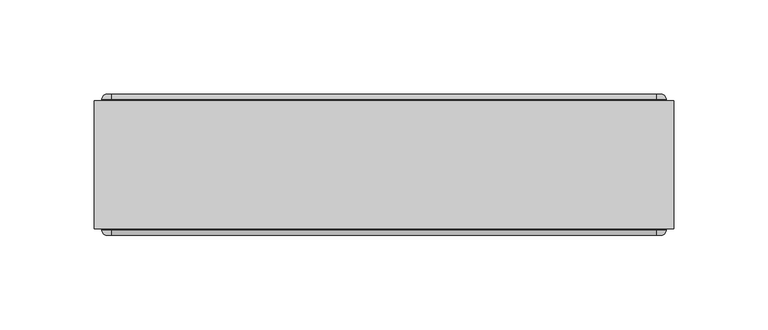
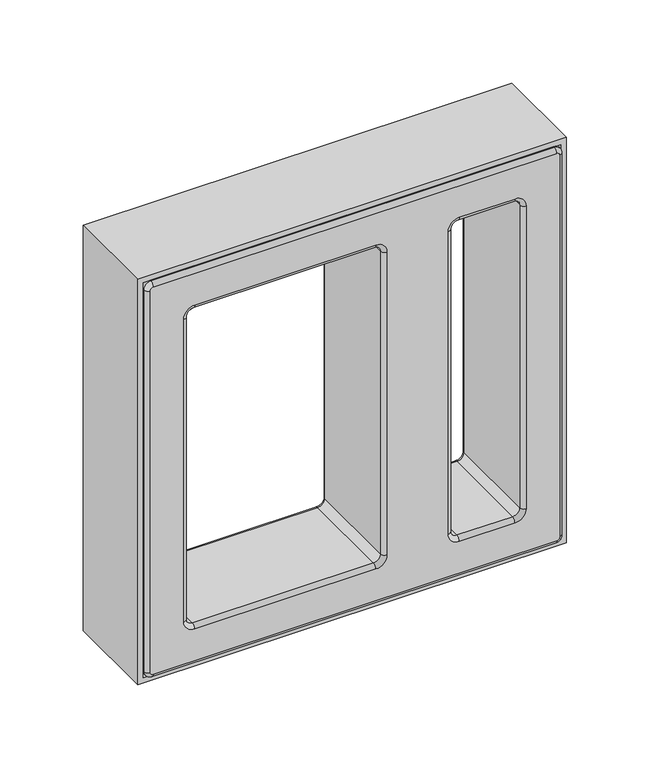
"""IFC4 building model written with IfcOpenShell, lengths in millimetres: proxy geometry, PORTOBELLO - ELEMENTO ASSIM BRANCO 30X30 (COBOGO) : ASSIM BRANCO."""

from ifc_helpers import new_model, si_unit, point, frame, origin, place, context, project, spatial, polyline, circle_curve, ellipse_curve, trimmed, outline, extrude, source, transform, mapped, element, save
from ifc_brep_helpers import plane_surface, cylinder_surface, revolved_surface, advanced_brep


def generic_models_842a660e(model_context):
    return source(origin(), model_context, "Body", "SolidModel", [
        advanced_brep(
        [(-145.0, 37.5, 301.0), (145.0, 37.5, 301.0), (147.0, 37.5, 299.0), (147.0, 37.5, 9.0), (145.0, 37.5, 7.0), (-145.0, 37.5, 7.0), (-147.0, 37.5, 9.0), (-147.0, 37.5, 299.0), (-123.0, 37.5, 269.0), (-123.0, 37.5, 39.0), (-115.0, 37.5, 31.0), (15.0, 37.5, 31.0), (23.0, 37.5, 39.0), (23.0, 37.5, 269.0), (15.0, 37.5, 277.0), (-115.0, 37.5, 277.0), (67.0, 37.5, 269.0), (67.0, 37.5, 39.0), (75.0, 37.5, 31.0), (115.0, 37.5, 31.0), (123.0, 37.5, 39.0), (123.0, 37.5, 269.0), (115.0, 37.5, 277.0), (75.0, 37.5, 277.0), (-147.0, -37.5, 299.0), (-147.0, -37.5, 9.0), (-145.0, -37.5, 7.0), (145.0, -37.5, 7.0), (147.0, -37.5, 9.0), (147.0, -37.5, 299.0), (145.0, -37.5, 301.0), (-145.0, -37.5, 301.0), (-115.0, -37.5, 277.0), (15.0, -37.5, 277.0), (23.0, -37.5, 269.0), (23.0, -37.5, 39.0), (15.0, -37.5, 31.0), (-115.0, -37.5, 31.0), (-123.0, -37.5, 39.0), (-123.0, -37.5, 269.0), (75.0, -37.5, 277.0), (115.0, -37.5, 277.0), (123.0, -37.5, 269.0), (123.0, -37.5, 39.0), (115.0, -37.5, 31.0), (75.0, -37.5, 31.0), (67.0, -37.5, 39.0), (67.0, -37.5, 269.0), (-145.0, 34.5, 304.0), (-150.0, 34.5, 299.0), (-150.0, -34.5, 299.0), (-145.0, -34.5, 304.0), (-150.0, 34.5, 9.0), (-150.0, -34.5, 9.0), (-145.0, 34.5, 4.0), (-145.0, -34.5, 4.0), (145.0, 34.5, 4.0), (145.0, -34.5, 4.0), (150.0, 34.5, 9.0), (150.0, -34.5, 9.0), (150.0, 34.5, 299.0), (150.0, -34.5, 299.0), (145.0, 34.5, 304.0), (145.0, -34.5, 304.0), (-120.0, 34.5, 39.0), (-120.0, 34.5, 269.0), (-120.0, -34.5, 269.0), (-120.0, -34.5, 39.0), (-115.0, 34.5, 274.0), (-115.0, -34.5, 274.0), (15.0, 34.5, 274.0), (15.0, -34.5, 274.0), (20.0, 34.5, 269.0), (20.0, -34.5, 269.0), (20.0, 34.5, 39.0), (20.0, -34.5, 39.0), (15.0, 34.5, 34.0), (15.0, -34.5, 34.0), (-115.0, 34.5, 34.0), (-115.0, -34.5, 34.0), (120.0, 34.5, 269.0), (120.0, 34.5, 39.0), (120.0, -34.5, 39.0), (120.0, -34.5, 269.0), (115.0, 34.5, 34.0), (115.0, -34.5, 34.0), (75.0, 34.5, 34.0), (75.0, -34.5, 34.0), (70.0, 34.5, 39.0), (70.0, -34.5, 39.0), (70.0, 34.5, 269.0), (70.0, -34.5, 269.0), (75.0, 34.5, 274.0), (75.0, -34.5, 274.0), (115.0, 34.5, 274.0), (115.0, -34.5, 274.0)],
        [
            (0, 1),
            (1, 2, circle_curve(frame((145.0, 37.5, 299.0), z_axis=(0.0, 1.0, 0.0), x_axis=(1.0, 0.0, 0.0)), 2.0)),
            (2, 3),
            (3, 4, circle_curve(frame((145.0, 37.5, 9.0), z_axis=(0.0, 1.0, 0.0), x_axis=(0.0, 0.0, -1.0)), 2.0)),
            (4, 5),
            (5, 6, circle_curve(frame((-145.0, 37.5, 9.0), z_axis=(0.0, 1.0, 0.0), x_axis=(-1.0, 0.0, 0.0)), 2.0)),
            (6, 7),
            (7, 0, circle_curve(frame((-145.0, 37.5, 299.0), z_axis=(0.0, 1.0, 0.0), x_axis=(0.0, 0.0, 1.0)), 2.0)),
            (8, 9),
            (9, 10, circle_curve(frame((-115.0, 37.5, 39.0), z_axis=(0.0, -1.0, 0.0), x_axis=(0.0, 0.0, -1.0)), 8.0)),
            (10, 11),
            (11, 12, circle_curve(frame((15.0, 37.5, 39.0), z_axis=(0.0, -1.0, 0.0), x_axis=(1.0, 0.0, 0.0)), 8.0)),
            (12, 13),
            (13, 14, circle_curve(frame((15.0, 37.5, 269.0), z_axis=(0.0, -1.0, 0.0), x_axis=(0.0, 0.0, 1.0)), 8.0)),
            (14, 15),
            (15, 8, circle_curve(frame((-115.0, 37.5, 269.0), z_axis=(0.0, -1.0, 0.0), x_axis=(-1.0, 0.0, 0.0)), 8.0)),
            (16, 17),
            (17, 18, circle_curve(frame((75.0, 37.5, 39.0), z_axis=(0.0, -1.0, 0.0), x_axis=(0.0, 0.0, -1.0)), 8.0)),
            (18, 19),
            (19, 20, circle_curve(frame((115.0, 37.5, 39.0), z_axis=(0.0, -1.0, 0.0), x_axis=(1.0, 0.0, 0.0)), 8.0)),
            (20, 21),
            (21, 22, circle_curve(frame((115.0, 37.5, 269.0), z_axis=(0.0, -1.0, 0.0), x_axis=(0.0, 0.0, 1.0)), 8.0)),
            (22, 23),
            (23, 16, circle_curve(frame((75.0, 37.5, 269.0), z_axis=(0.0, -1.0, 0.0), x_axis=(-1.0, 0.0, 0.0)), 8.0)),
            (24, 25),
            (25, 26, circle_curve(frame((-145.0, -37.5, 9.0), z_axis=(0.0, -1.0, 0.0), x_axis=(-1.0, 0.0, 0.0)), 2.0)),
            (26, 27),
            (27, 28, circle_curve(frame((145.0, -37.5, 9.0), z_axis=(0.0, -1.0, 0.0), x_axis=(0.0, 0.0, -1.0)), 2.0)),
            (28, 29),
            (29, 30, circle_curve(frame((145.0, -37.5, 299.0), z_axis=(0.0, -1.0, 0.0), x_axis=(1.0, 0.0, 0.0)), 2.0)),
            (30, 31),
            (31, 24, circle_curve(frame((-145.0, -37.5, 299.0), z_axis=(0.0, -1.0, 0.0), x_axis=(0.0, 0.0, 1.0)), 2.0)),
            (32, 33),
            (33, 34, circle_curve(frame((15.0, -37.5, 269.0), z_axis=(0.0, 1.0, 0.0), x_axis=(0.0, 0.0, 1.0)), 8.0)),
            (34, 35),
            (35, 36, circle_curve(frame((15.0, -37.5, 39.0), z_axis=(0.0, 1.0, 0.0), x_axis=(1.0, 0.0, 0.0)), 8.0)),
            (36, 37),
            (37, 38, circle_curve(frame((-115.0, -37.5, 39.0), z_axis=(0.0, 1.0, 0.0), x_axis=(0.0, 0.0, -1.0)), 8.0)),
            (38, 39),
            (39, 32, circle_curve(frame((-115.0, -37.5, 269.0), z_axis=(0.0, 1.0, 0.0), x_axis=(-1.0, 0.0, 0.0)), 8.0)),
            (40, 41),
            (41, 42, circle_curve(frame((115.0, -37.5, 269.0), z_axis=(0.0, 1.0, 0.0), x_axis=(0.0, 0.0, 1.0)), 8.0)),
            (42, 43),
            (43, 44, circle_curve(frame((115.0, -37.5, 39.0), z_axis=(0.0, 1.0, 0.0), x_axis=(1.0, 0.0, 0.0)), 8.0)),
            (44, 45),
            (45, 46, circle_curve(frame((75.0, -37.5, 39.0), z_axis=(0.0, 1.0, 0.0), x_axis=(0.0, 0.0, -1.0)), 8.0)),
            (46, 47),
            (47, 40, circle_curve(frame((75.0, -37.5, 269.0), z_axis=(0.0, 1.0, 0.0), x_axis=(-1.0, 0.0, 0.0)), 8.0)),
            (48, 49, circle_curve(frame((-145.0, 34.5, 299.0), z_axis=(0.0, -1.0, 0.0), x_axis=(1.0, 0.0, 0.0)), 5.0)),
            (49, 50),
            (50, 51, circle_curve(frame((-145.0, -34.5, 299.0), z_axis=(0.0, 1.0, 0.0), x_axis=(1.0, 0.0, 0.0)), 5.0)),
            (51, 48),
            (49, 52),
            (52, 53),
            (53, 50),
            (52, 54, circle_curve(frame((-145.0, 34.5, 9.0), z_axis=(0.0, -1.0, 0.0), x_axis=(1.0, 0.0, 0.0)), 5.0)),
            (54, 55),
            (55, 53, circle_curve(frame((-145.0, -34.5, 9.0), z_axis=(0.0, 1.0, 0.0), x_axis=(1.0, 0.0, 0.0)), 5.0)),
            (54, 56),
            (56, 57),
            (57, 55),
            (56, 58, circle_curve(frame((145.0, 34.5, 9.0), z_axis=(0.0, -1.0, 0.0), x_axis=(1.0, 0.0, 0.0)), 5.0)),
            (58, 59),
            (59, 57, circle_curve(frame((145.0, -34.5, 9.0), z_axis=(0.0, 1.0, 0.0), x_axis=(1.0, 0.0, 0.0)), 5.0)),
            (58, 60),
            (60, 61),
            (61, 59),
            (60, 62, circle_curve(frame((145.0, 34.5, 299.0), z_axis=(0.0, -1.0, 0.0), x_axis=(1.0, 0.0, 0.0)), 5.0)),
            (62, 63),
            (63, 61, circle_curve(frame((145.0, -34.5, 299.0), z_axis=(0.0, 1.0, 0.0), x_axis=(1.0, 0.0, 0.0)), 5.0)),
            (51, 63),
            (62, 48),
            (64, 65),
            (65, 66),
            (66, 67),
            (67, 64),
            (65, 68, circle_curve(frame((-115.0, 34.5, 269.0), z_axis=(0.0, 1.0, 0.0), x_axis=(1.0, 0.0, 0.0)), 5.0)),
            (68, 69),
            (69, 66, circle_curve(frame((-115.0, -34.5, 269.0), z_axis=(0.0, -1.0, 0.0), x_axis=(1.0, 0.0, 0.0)), 5.0)),
            (68, 70),
            (70, 71),
            (71, 69),
            (70, 72, circle_curve(frame((15.0, 34.5, 269.0), z_axis=(0.0, 1.0, 0.0), x_axis=(1.0, 0.0, 0.0)), 5.0)),
            (72, 73),
            (73, 71, circle_curve(frame((15.0, -34.5, 269.0), z_axis=(0.0, -1.0, 0.0), x_axis=(1.0, 0.0, 0.0)), 5.0)),
            (72, 74),
            (74, 75),
            (75, 73),
            (74, 76, circle_curve(frame((15.0, 34.5, 39.0), z_axis=(0.0, 1.0, 0.0), x_axis=(1.0, 0.0, 0.0)), 5.0)),
            (76, 77),
            (77, 75, circle_curve(frame((15.0, -34.5, 39.0), z_axis=(0.0, -1.0, 0.0), x_axis=(1.0, 0.0, 0.0)), 5.0)),
            (76, 78),
            (78, 79),
            (79, 77),
            (67, 79, circle_curve(frame((-115.0, -34.5, 39.0), z_axis=(0.0, -1.0, 0.0), x_axis=(1.0, 0.0, 0.0)), 5.0)),
            (78, 64, circle_curve(frame((-115.0, 34.5, 39.0), z_axis=(0.0, 1.0, 0.0), x_axis=(1.0, 0.0, 0.0)), 5.0)),
            (80, 81),
            (81, 82),
            (82, 83),
            (83, 80),
            (81, 84, circle_curve(frame((115.0, 34.5, 39.0), z_axis=(0.0, 1.0, 0.0), x_axis=(1.0, 0.0, 0.0)), 5.0)),
            (84, 85),
            (85, 82, circle_curve(frame((115.0, -34.5, 39.0), z_axis=(0.0, -1.0, 0.0), x_axis=(1.0, 0.0, 0.0)), 5.0)),
            (84, 86),
            (86, 87),
            (87, 85),
            (86, 88, circle_curve(frame((75.0, 34.5, 39.0), z_axis=(0.0, 1.0, 0.0), x_axis=(1.0, 0.0, 0.0)), 5.0)),
            (88, 89),
            (89, 87, circle_curve(frame((75.0, -34.5, 39.0), z_axis=(0.0, -1.0, 0.0), x_axis=(1.0, 0.0, 0.0)), 5.0)),
            (88, 90),
            (90, 91),
            (91, 89),
            (90, 92, circle_curve(frame((75.0, 34.5, 269.0), z_axis=(0.0, 1.0, 0.0), x_axis=(1.0, 0.0, 0.0)), 5.0)),
            (92, 93),
            (93, 91, circle_curve(frame((75.0, -34.5, 269.0), z_axis=(0.0, -1.0, 0.0), x_axis=(1.0, 0.0, 0.0)), 5.0)),
            (92, 94),
            (94, 95),
            (95, 93),
            (83, 95, circle_curve(frame((115.0, -34.5, 269.0), z_axis=(0.0, -1.0, 0.0), x_axis=(1.0, 0.0, 0.0)), 5.0)),
            (94, 80, circle_curve(frame((115.0, 34.5, 269.0), z_axis=(0.0, 1.0, 0.0), x_axis=(1.0, 0.0, 0.0)), 5.0)),
            (48, 0, circle_curve(frame((-145.0, 34.5, 301.0), z_axis=(-1.0, 0.0, 0.0), x_axis=(0.0, 1.0, 0.0)), 3.0)),
            (7, 49, circle_curve(frame((-147.0, 34.5, 299.0), z_axis=(0.0, 0.0, 1.0), x_axis=(0.0, 1.0, 0.0)), 3.0)),
            (6, 52, circle_curve(frame((-147.0, 34.5, 9.0), z_axis=(0.0, 0.0, 1.0), x_axis=(0.0, 1.0, 0.0)), 3.0)),
            (5, 54, circle_curve(frame((-145.0, 34.5, 7.0), z_axis=(-1.0, 0.0, 0.0), x_axis=(0.0, 1.0, 0.0)), 3.0)),
            (4, 56, circle_curve(frame((145.0, 34.5, 7.0), z_axis=(-1.0, 0.0, 0.0), x_axis=(0.0, 1.0, 0.0)), 3.0)),
            (3, 58, circle_curve(frame((147.0, 34.5, 9.0), z_axis=(0.0, 0.0, -1.0), x_axis=(0.0, 1.0, 0.0)), 3.0)),
            (2, 60, circle_curve(frame((147.0, 34.5, 299.0), z_axis=(0.0, 0.0, -1.0), x_axis=(0.0, 1.0, 0.0)), 3.0)),
            (1, 62, circle_curve(frame((145.0, 34.5, 301.0), z_axis=(1.0, 0.0, 0.0), x_axis=(0.0, 1.0, 0.0)), 3.0)),
            (31, 51, circle_curve(frame((-145.0, -34.5, 301.0), z_axis=(-1.0, 0.0, 0.0), x_axis=(0.0, 1.0, 0.0)), 3.0)),
            (50, 24, circle_curve(frame((-147.0, -34.5, 299.0), z_axis=(0.0, 0.0, 1.0), x_axis=(0.0, 1.0, 0.0)), 3.0)),
            (53, 25, circle_curve(frame((-147.0, -34.5, 9.0), z_axis=(0.0, 0.0, 1.0), x_axis=(0.0, 1.0, 0.0)), 3.0)),
            (55, 26, circle_curve(frame((-145.0, -34.5, 7.0), z_axis=(-1.0, 0.0, 0.0), x_axis=(0.0, 1.0, 0.0)), 3.0)),
            (57, 27, circle_curve(frame((145.0, -34.5, 7.0), z_axis=(-1.0, 0.0, 0.0), x_axis=(0.0, 1.0, 0.0)), 3.0)),
            (59, 28, circle_curve(frame((147.0, -34.5, 9.0), z_axis=(0.0, 0.0, -1.0), x_axis=(0.0, 1.0, 0.0)), 3.0)),
            (61, 29, circle_curve(frame((147.0, -34.5, 299.0), z_axis=(0.0, 0.0, -1.0), x_axis=(0.0, 1.0, 0.0)), 3.0)),
            (63, 30, circle_curve(frame((145.0, -34.5, 301.0), z_axis=(1.0, 0.0, 0.0), x_axis=(0.0, 1.0, 0.0)), 3.0)),
            (65, 8, circle_curve(frame((-123.0, 34.5, 269.0), z_axis=(0.0, 0.0, 1.0), x_axis=(0.0, 1.0, 0.0)), 3.0)),
            (15, 68, circle_curve(frame((-115.0, 34.5, 277.0), z_axis=(-1.0, 0.0, 0.0), x_axis=(0.0, 1.0, 0.0)), 3.0)),
            (14, 70, circle_curve(frame((15.0, 34.5, 277.0), z_axis=(-1.0, 0.0, 0.0), x_axis=(0.0, 1.0, 0.0)), 3.0)),
            (13, 72, circle_curve(frame((23.0, 34.5, 269.0), z_axis=(0.0, 0.0, 1.0), x_axis=(0.0, 1.0, 0.0)), 3.0)),
            (12, 74, circle_curve(frame((23.0, 34.5, 39.0), z_axis=(0.0, 0.0, 1.0), x_axis=(0.0, 1.0, 0.0)), 3.0)),
            (11, 76, circle_curve(frame((15.0, 34.5, 31.0), z_axis=(1.0, 0.0, 0.0), x_axis=(0.0, 1.0, 0.0)), 3.0)),
            (10, 78, circle_curve(frame((-115.0, 34.5, 31.0), z_axis=(1.0, 0.0, 0.0), x_axis=(0.0, 1.0, 0.0)), 3.0)),
            (9, 64, circle_curve(frame((-123.0, 34.5, 39.0), z_axis=(0.0, 0.0, -1.0), x_axis=(0.0, 1.0, 0.0)), 3.0)),
            (39, 66, circle_curve(frame((-123.0, -34.5, 269.0), z_axis=(0.0, 0.0, 1.0), x_axis=(0.0, 1.0, 0.0)), 3.0)),
            (69, 32, circle_curve(frame((-115.0, -34.5, 277.0), z_axis=(-1.0, 0.0, 0.0), x_axis=(0.0, 1.0, 0.0)), 3.0)),
            (71, 33, circle_curve(frame((15.0, -34.5, 277.0), z_axis=(-1.0, 0.0, 0.0), x_axis=(0.0, 1.0, 0.0)), 3.0)),
            (73, 34, circle_curve(frame((23.0, -34.5, 269.0), z_axis=(0.0, 0.0, 1.0), x_axis=(0.0, 1.0, 0.0)), 3.0)),
            (75, 35, circle_curve(frame((23.0, -34.5, 39.0), z_axis=(0.0, 0.0, 1.0), x_axis=(0.0, 1.0, 0.0)), 3.0)),
            (77, 36, circle_curve(frame((15.0, -34.5, 31.0), z_axis=(1.0, 0.0, 0.0), x_axis=(0.0, 1.0, 0.0)), 3.0)),
            (79, 37, circle_curve(frame((-115.0, -34.5, 31.0), z_axis=(1.0, 0.0, 0.0), x_axis=(0.0, 1.0, 0.0)), 3.0)),
            (67, 38, circle_curve(frame((-123.0, -34.5, 39.0), z_axis=(0.0, 0.0, -1.0), x_axis=(0.0, 1.0, 0.0)), 3.0)),
            (90, 16, circle_curve(frame((67.0, 34.5, 269.0), z_axis=(0.0, 0.0, 1.0), x_axis=(0.0, 1.0, 0.0)), 3.0)),
            (23, 92, circle_curve(frame((75.0, 34.5, 277.0), z_axis=(-1.0, 0.0, 0.0), x_axis=(0.0, 1.0, 0.0)), 3.0)),
            (47, 91, circle_curve(frame((67.0, -34.5, 269.0), z_axis=(0.0, 0.0, 1.0), x_axis=(0.0, 1.0, 0.0)), 3.0)),
            (93, 40, circle_curve(frame((75.0, -34.5, 277.0), z_axis=(-1.0, 0.0, 0.0), x_axis=(0.0, 1.0, 0.0)), 3.0)),
            (22, 94, circle_curve(frame((115.0, 34.5, 277.0), z_axis=(-1.0, 0.0, 0.0), x_axis=(0.0, 1.0, 0.0)), 3.0)),
            (95, 41, circle_curve(frame((115.0, -34.5, 277.0), z_axis=(-1.0, 0.0, 0.0), x_axis=(0.0, 1.0, 0.0)), 3.0)),
            (21, 80, circle_curve(frame((123.0, 34.5, 269.0), z_axis=(0.0, 0.0, 1.0), x_axis=(0.0, 1.0, 0.0)), 3.0)),
            (83, 42, circle_curve(frame((123.0, -34.5, 269.0), z_axis=(0.0, 0.0, 1.0), x_axis=(0.0, 1.0, 0.0)), 3.0)),
            (20, 81, circle_curve(frame((123.0, 34.5, 39.0), z_axis=(0.0, 0.0, 1.0), x_axis=(0.0, 1.0, 0.0)), 3.0)),
            (82, 43, circle_curve(frame((123.0, -34.5, 39.0), z_axis=(0.0, 0.0, 1.0), x_axis=(0.0, 1.0, 0.0)), 3.0)),
            (19, 84, circle_curve(frame((115.0, 34.5, 31.0), z_axis=(1.0, 0.0, 0.0), x_axis=(0.0, 1.0, 0.0)), 3.0)),
            (85, 44, circle_curve(frame((115.0, -34.5, 31.0), z_axis=(1.0, 0.0, 0.0), x_axis=(0.0, 1.0, 0.0)), 3.0)),
            (18, 86, circle_curve(frame((75.0, 34.5, 31.0), z_axis=(1.0, 0.0, 0.0), x_axis=(0.0, 1.0, 0.0)), 3.0)),
            (87, 45, circle_curve(frame((75.0, -34.5, 31.0), z_axis=(1.0, 0.0, 0.0), x_axis=(0.0, 1.0, 0.0)), 3.0)),
            (17, 88, circle_curve(frame((67.0, 34.5, 39.0), z_axis=(0.0, 0.0, -1.0), x_axis=(0.0, 1.0, 0.0)), 3.0)),
            (89, 46, circle_curve(frame((67.0, -34.5, 39.0), z_axis=(0.0, 0.0, -1.0), x_axis=(0.0, 1.0, 0.0)), 3.0)),
        ],
        [
            plane_surface(frame((-140.0, 37.5, 299.0), z_axis=(0.0, 1.0, 0.0), x_axis=(0.0, 0.0, 1.0))),
            plane_surface(frame((-140.0, -37.5, 299.0), z_axis=(0.0, -1.0, 0.0), x_axis=(0.0, 0.0, -1.0))),
            cylinder_surface(frame((-145.0, -37.5, 299.0), z_axis=(0.0, 1.0, 0.0), x_axis=(1.0, 0.0, 0.0)), 5.0),
            plane_surface(frame((-150.0, 37.5, 299.0), z_axis=(-1.0, 0.0, 0.0), x_axis=(0.0, -1.0, 0.0))),
            cylinder_surface(frame((-145.0, -37.5, 9.0), z_axis=(0.0, 1.0, 0.0), x_axis=(1.0, 0.0, 0.0)), 5.0),
            plane_surface(frame((-145.0, 37.5, 4.0), z_axis=(0.0, 0.0, -1.0), x_axis=(0.0, -1.0, 0.0))),
            cylinder_surface(frame((145.0, -37.5, 9.0), z_axis=(0.0, 1.0, 0.0), x_axis=(1.0, 0.0, 0.0)), 5.0),
            plane_surface(frame((150.0, 37.5, 9.0), z_axis=(1.0, 0.0, 0.0), x_axis=(0.0, -1.0, 0.0))),
            cylinder_surface(frame((145.0, -37.5, 299.0), z_axis=(0.0, 1.0, 0.0), x_axis=(1.0, 0.0, 0.0)), 5.0),
            plane_surface(frame((145.0, 37.5, 304.0), z_axis=(0.0, 0.0, 1.0), x_axis=(0.0, -1.0, 0.0))),
            plane_surface(frame((-120.0, 37.5, 39.0), z_axis=(1.0, 0.0, 0.0), x_axis=(0.0, -1.0, 0.0))),
            revolved_surface(polyline([(-110.0, -34.5, 269.0), (-110.0, 34.5, 269.0)]), (-115.0, 0.0, 269.0), (0.0, -1.0, 0.0)),
            plane_surface(frame((-115.0, 37.5, 274.0), z_axis=(0.0, 0.0, -1.0), x_axis=(0.0, -1.0, 0.0))),
            revolved_surface(polyline([(20.0, -34.5, 269.0), (20.0, 34.5, 269.0)]), (15.0, 0.0, 269.0), (0.0, -1.0, 0.0)),
            plane_surface(frame((20.0, 37.5, 269.0), z_axis=(-1.0, 0.0, 0.0), x_axis=(0.0, -1.0, 0.0))),
            revolved_surface(polyline([(20.0, -34.5, 39.0), (20.0, 34.5, 39.0)]), (15.0, 0.0, 39.0), (0.0, -1.0, 0.0)),
            plane_surface(frame((15.0, 37.5, 34.0), z_axis=(0.0, 0.0, 1.0), x_axis=(0.0, -1.0, 0.0))),
            revolved_surface(polyline([(-110.0, -34.5, 39.0), (-110.0, 34.5, 39.0)]), (-115.0, 0.0, 39.0), (0.0, -1.0, 0.0)),
            plane_surface(frame((120.0, 37.5, 269.0), z_axis=(-1.0, 0.0, 0.0), x_axis=(0.0, -1.0, 0.0))),
            revolved_surface(polyline([(120.0, -34.5, 39.0), (120.0, 34.5, 39.0)]), (115.0, 0.0, 39.0), (0.0, -1.0, 0.0)),
            plane_surface(frame((115.0, 37.5, 34.0), z_axis=(0.0, 0.0, 1.0), x_axis=(0.0, -1.0, 0.0))),
            revolved_surface(polyline([(80.0, -34.5, 39.0), (80.0, 34.5, 39.0)]), (75.0, 0.0, 39.0), (0.0, -1.0, 0.0)),
            plane_surface(frame((70.0, 37.5, 39.0), z_axis=(1.0, 0.0, 0.0), x_axis=(0.0, -1.0, 0.0))),
            revolved_surface(polyline([(80.0, -34.5, 269.0), (80.0, 34.5, 269.0)]), (75.0, 0.0, 269.0), (0.0, -1.0, 0.0)),
            plane_surface(frame((75.0, 37.5, 274.0), z_axis=(0.0, 0.0, -1.0), x_axis=(0.0, -1.0, 0.0))),
            revolved_surface(polyline([(120.0, -34.5, 269.0), (120.0, 34.5, 269.0)]), (115.0, 0.0, 269.0), (0.0, -1.0, 0.0)),
            revolved_surface(trimmed(ellipse_curve(frame((-145.0, 34.5, 301.0), z_axis=(-1.0, 0.0, 0.0), x_axis=(0.0, 1.0, 0.0)), 3.0, 3.0), [point((-145.0, 34.5, 304.0))], [point((-145.0, 37.5, 301.0))], True, "CARTESIAN"), (-145.0, 37.5, 299.0), (0.0, 1.0, 0.0)),
            cylinder_surface(frame((-147.0, 34.5, 299.0), z_axis=(0.0, 0.0, -1.0), x_axis=(0.0, 1.0, 0.0)), 3.0),
            revolved_surface(trimmed(ellipse_curve(frame((-147.0, 34.5, 9.0), z_axis=(0.0, 0.0, -1.0), x_axis=(0.0, 1.0, 0.0)), 3.0, 3.0), [point((-150.0, 34.5, 9.0))], [point((-147.0, 37.5, 9.0))], True, "CARTESIAN"), (-145.0, 37.5, 9.0), (0.0, 1.0, 0.0)),
            cylinder_surface(frame((-145.0, 34.5, 7.0), z_axis=(1.0, 0.0, 0.0), x_axis=(0.0, 1.0, 0.0)), 3.0),
            revolved_surface(trimmed(ellipse_curve(frame((145.0, 34.5, 7.0), z_axis=(1.0, 0.0, 0.0), x_axis=(0.0, 1.0, 0.0)), 3.0, 3.0), [point((145.0, 34.5, 4.0))], [point((145.0, 37.5, 7.0))], True, "CARTESIAN"), (145.0, 37.5, 9.0), (0.0, 1.0, 0.0)),
            cylinder_surface(frame((147.0, 34.5, 9.0), z_axis=(0.0, 0.0, 1.0), x_axis=(0.0, 1.0, 0.0)), 3.0),
            revolved_surface(trimmed(ellipse_curve(frame((147.0, 34.5, 299.0), z_axis=(0.0, 0.0, 1.0), x_axis=(0.0, 1.0, 0.0)), 3.0, 3.0), [point((150.0, 34.5, 299.0))], [point((147.0, 37.5, 299.0))], True, "CARTESIAN"), (145.0, 37.5, 299.0), (0.0, 1.0, 0.0)),
            cylinder_surface(frame((145.0, 34.5, 301.0), z_axis=(-1.0, 0.0, 0.0), x_axis=(0.0, 1.0, 0.0)), 3.0),
            revolved_surface(trimmed(ellipse_curve(frame((-145.0, -34.5, 301.0), z_axis=(-1.0, 0.0, 0.0), x_axis=(0.0, 1.0, 0.0)), 3.0, 3.0), [point((-145.0, -37.5, 301.0))], [point((-145.0, -34.5, 304.0))], True, "CARTESIAN"), (-145.0, 37.5, 299.0), (0.0, 1.0, 0.0)),
            cylinder_surface(frame((-147.0, -34.5, 299.0), z_axis=(0.0, 0.0, -1.0), x_axis=(0.0, 1.0, 0.0)), 3.0),
            revolved_surface(trimmed(ellipse_curve(frame((-147.0, -34.5, 9.0), z_axis=(0.0, 0.0, -1.0), x_axis=(0.0, 1.0, 0.0)), 3.0, 3.0), [point((-147.0, -37.5, 9.0))], [point((-150.0, -34.5, 9.0))], True, "CARTESIAN"), (-145.0, 37.5, 9.0), (0.0, 1.0, 0.0)),
            cylinder_surface(frame((-145.0, -34.5, 7.0), z_axis=(1.0, 0.0, 0.0), x_axis=(0.0, 1.0, 0.0)), 3.0),
            revolved_surface(trimmed(ellipse_curve(frame((145.0, -34.5, 7.0), z_axis=(1.0, 0.0, 0.0), x_axis=(0.0, 1.0, 0.0)), 3.0, 3.0), [point((145.0, -37.5, 7.0))], [point((145.0, -34.5, 4.0))], True, "CARTESIAN"), (145.0, 37.5, 9.0), (0.0, 1.0, 0.0)),
            cylinder_surface(frame((147.0, -34.5, 9.0), z_axis=(0.0, 0.0, 1.0), x_axis=(0.0, 1.0, 0.0)), 3.0),
            revolved_surface(trimmed(ellipse_curve(frame((147.0, -34.5, 299.0), z_axis=(0.0, 0.0, 1.0), x_axis=(0.0, 1.0, 0.0)), 3.0, 3.0), [point((147.0, -37.5, 299.0))], [point((150.0, -34.5, 299.0))], True, "CARTESIAN"), (145.0, 37.5, 299.0), (0.0, 1.0, 0.0)),
            cylinder_surface(frame((145.0, -34.5, 301.0), z_axis=(-1.0, 0.0, 0.0), x_axis=(0.0, 1.0, 0.0)), 3.0),
            revolved_surface(trimmed(ellipse_curve(frame((-123.0, 34.5, 269.0), z_axis=(0.0, 0.0, 1.0), x_axis=(0.0, 1.0, 0.0)), 3.0, 3.0), [point((-120.0, 34.5, 269.0))], [point((-123.0, 37.5, 269.0))], True, "CARTESIAN"), (-115.0, 37.5, 269.0), (0.0, -1.0, 0.0)),
            cylinder_surface(frame((-115.0, 34.5, 277.0), z_axis=(1.0, 0.0, 0.0), x_axis=(0.0, 1.0, 0.0)), 3.0),
            revolved_surface(trimmed(ellipse_curve(frame((15.0, 34.5, 277.0), z_axis=(1.0, 0.0, 0.0), x_axis=(0.0, 1.0, 0.0)), 3.0, 3.0), [point((15.0, 34.5, 274.0))], [point((15.0, 37.5, 277.0))], True, "CARTESIAN"), (15.0, 37.5, 269.0), (0.0, -1.0, 0.0)),
            cylinder_surface(frame((23.0, 34.5, 269.0), z_axis=(0.0, 0.0, -1.0), x_axis=(0.0, 1.0, 0.0)), 3.0),
            revolved_surface(trimmed(ellipse_curve(frame((23.0, 34.5, 39.0), z_axis=(0.0, 0.0, -1.0), x_axis=(0.0, 1.0, 0.0)), 3.0, 3.0), [point((20.0, 34.5, 39.0))], [point((23.0, 37.5, 39.0))], True, "CARTESIAN"), (15.0, 37.5, 39.0), (0.0, -1.0, 0.0)),
            cylinder_surface(frame((15.0, 34.5, 31.0), z_axis=(-1.0, 0.0, 0.0), x_axis=(0.0, 1.0, 0.0)), 3.0),
            revolved_surface(trimmed(ellipse_curve(frame((-115.0, 34.5, 31.0), z_axis=(-1.0, 0.0, 0.0), x_axis=(0.0, 1.0, 0.0)), 3.0, 3.0), [point((-115.0, 34.5, 34.0))], [point((-115.0, 37.5, 31.0))], True, "CARTESIAN"), (-115.0, 37.5, 39.0), (0.0, -1.0, 0.0)),
            cylinder_surface(frame((-123.0, 34.5, 39.0), z_axis=(0.0, 0.0, 1.0), x_axis=(0.0, 1.0, 0.0)), 3.0),
            revolved_surface(trimmed(ellipse_curve(frame((-123.0, -34.5, 269.0), z_axis=(0.0, 0.0, 1.0), x_axis=(0.0, 1.0, 0.0)), 3.0, 3.0), [point((-123.0, -37.5, 269.0))], [point((-120.0, -34.5, 269.0))], True, "CARTESIAN"), (-115.0, 37.5, 269.0), (0.0, -1.0, 0.0)),
            cylinder_surface(frame((-115.0, -34.5, 277.0), z_axis=(1.0, 0.0, 0.0), x_axis=(0.0, 1.0, 0.0)), 3.0),
            revolved_surface(trimmed(ellipse_curve(frame((15.0, -34.5, 277.0), z_axis=(1.0, 0.0, 0.0), x_axis=(0.0, 1.0, 0.0)), 3.0, 3.0), [point((15.0, -37.5, 277.0))], [point((15.0, -34.5, 274.0))], True, "CARTESIAN"), (15.0, 37.5, 269.0), (0.0, -1.0, 0.0)),
            cylinder_surface(frame((23.0, -34.5, 269.0), z_axis=(0.0, 0.0, -1.0), x_axis=(0.0, 1.0, 0.0)), 3.0),
            revolved_surface(trimmed(ellipse_curve(frame((23.0, -34.5, 39.0), z_axis=(0.0, 0.0, -1.0), x_axis=(0.0, 1.0, 0.0)), 3.0, 3.0), [point((23.0, -37.5, 39.0))], [point((20.0, -34.5, 39.0))], True, "CARTESIAN"), (15.0, 37.5, 39.0), (0.0, -1.0, 0.0)),
            cylinder_surface(frame((15.0, -34.5, 31.0), z_axis=(-1.0, 0.0, 0.0), x_axis=(0.0, 1.0, 0.0)), 3.0),
            revolved_surface(trimmed(ellipse_curve(frame((-115.0, -34.5, 31.0), z_axis=(-1.0, 0.0, 0.0), x_axis=(0.0, 1.0, 0.0)), 3.0, 3.0), [point((-115.0, -37.5, 31.0))], [point((-115.0, -34.5, 34.0))], True, "CARTESIAN"), (-115.0, 37.5, 39.0), (0.0, -1.0, 0.0)),
            cylinder_surface(frame((-123.0, -34.5, 39.0), z_axis=(0.0, 0.0, 1.0), x_axis=(0.0, 1.0, 0.0)), 3.0),
            revolved_surface(trimmed(ellipse_curve(frame((67.0, 34.5, 269.0), z_axis=(0.0, 0.0, 1.0), x_axis=(0.0, 1.0, 0.0)), 3.0, 3.0), [point((70.0, 34.5, 269.0))], [point((67.0, 37.5, 269.0))], True, "CARTESIAN"), (75.0, 37.5, 269.0), (0.0, -1.0, 0.0)),
            revolved_surface(trimmed(ellipse_curve(frame((67.0, -34.5, 269.0), z_axis=(0.0, 0.0, 1.0), x_axis=(0.0, 1.0, 0.0)), 3.0, 3.0), [point((67.0, -37.5, 269.0))], [point((70.0, -34.5, 269.0))], True, "CARTESIAN"), (75.0, 37.5, 269.0), (0.0, -1.0, 0.0)),
            cylinder_surface(frame((75.0, 34.5, 277.0), z_axis=(1.0, 0.0, 0.0), x_axis=(0.0, 1.0, 0.0)), 3.0),
            cylinder_surface(frame((75.0, -34.5, 277.0), z_axis=(1.0, 0.0, 0.0), x_axis=(0.0, 1.0, 0.0)), 3.0),
            revolved_surface(trimmed(ellipse_curve(frame((115.0, 34.5, 277.0), z_axis=(1.0, 0.0, 0.0), x_axis=(0.0, 1.0, 0.0)), 3.0, 3.0), [point((115.0, 34.5, 274.0))], [point((115.0, 37.5, 277.0))], True, "CARTESIAN"), (115.0, 37.5, 269.0), (0.0, -1.0, 0.0)),
            revolved_surface(trimmed(ellipse_curve(frame((115.0, -34.5, 277.0), z_axis=(1.0, 0.0, 0.0), x_axis=(0.0, 1.0, 0.0)), 3.0, 3.0), [point((115.0, -37.5, 277.0))], [point((115.0, -34.5, 274.0))], True, "CARTESIAN"), (115.0, 37.5, 269.0), (0.0, -1.0, 0.0)),
            cylinder_surface(frame((123.0, 34.5, 269.0), z_axis=(0.0, 0.0, -1.0), x_axis=(0.0, 1.0, 0.0)), 3.0),
            cylinder_surface(frame((123.0, -34.5, 269.0), z_axis=(0.0, 0.0, -1.0), x_axis=(0.0, 1.0, 0.0)), 3.0),
            revolved_surface(trimmed(ellipse_curve(frame((123.0, 34.5, 39.0), z_axis=(0.0, 0.0, -1.0), x_axis=(0.0, 1.0, 0.0)), 3.0, 3.0), [point((120.0, 34.5, 39.0))], [point((123.0, 37.5, 39.0))], True, "CARTESIAN"), (115.0, 37.5, 39.0), (0.0, -1.0, 0.0)),
            revolved_surface(trimmed(ellipse_curve(frame((123.0, -34.5, 39.0), z_axis=(0.0, 0.0, -1.0), x_axis=(0.0, 1.0, 0.0)), 3.0, 3.0), [point((123.0, -37.5, 39.0))], [point((120.0, -34.5, 39.0))], True, "CARTESIAN"), (115.0, 37.5, 39.0), (0.0, -1.0, 0.0)),
            cylinder_surface(frame((115.0, 34.5, 31.0), z_axis=(-1.0, 0.0, 0.0), x_axis=(0.0, 1.0, 0.0)), 3.0),
            cylinder_surface(frame((115.0, -34.5, 31.0), z_axis=(-1.0, 0.0, 0.0), x_axis=(0.0, 1.0, 0.0)), 3.0),
            revolved_surface(trimmed(ellipse_curve(frame((75.0, 34.5, 31.0), z_axis=(-1.0, 0.0, 0.0), x_axis=(0.0, 1.0, 0.0)), 3.0, 3.0), [point((75.0, 34.5, 34.0))], [point((75.0, 37.5, 31.0))], True, "CARTESIAN"), (75.0, 37.5, 39.0), (0.0, -1.0, 0.0)),
            revolved_surface(trimmed(ellipse_curve(frame((75.0, -34.5, 31.0), z_axis=(-1.0, 0.0, 0.0), x_axis=(0.0, 1.0, 0.0)), 3.0, 3.0), [point((75.0, -37.5, 31.0))], [point((75.0, -34.5, 34.0))], True, "CARTESIAN"), (75.0, 37.5, 39.0), (0.0, -1.0, 0.0)),
            cylinder_surface(frame((67.0, 34.5, 39.0), z_axis=(0.0, 0.0, 1.0), x_axis=(0.0, 1.0, 0.0)), 3.0),
            cylinder_surface(frame((67.0, -34.5, 39.0), z_axis=(0.0, 0.0, 1.0), x_axis=(0.0, 1.0, 0.0)), 3.0),
        ],
        [
            (0, [[1, 2, 3, 4, 5, 6, 7, 8], [9, 10, 11, 12, 13, 14, 15, 16], [17, 18, 19, 20, 21, 22, 23, 24]]),
            (1, [[25, 26, 27, 28, 29, 30, 31, 32], [33, 34, 35, 36, 37, 38, 39, 40], [41, 42, 43, 44, 45, 46, 47, 48]]),
            (2, [[49, 50, 51, 52]]),
            (3, [[53, 54, 55, -50]]),
            (4, [[56, 57, 58, -54]]),
            (5, [[59, 60, 61, -57]]),
            (6, [[62, 63, 64, -60]]),
            (7, [[65, 66, 67, -63]]),
            (8, [[68, 69, 70, -66]]),
            (9, [[71, -69, 72, -52]]),
            (10, [[73, 74, 75, 76]]),
            (11, [[77, 78, 79, -74]]),
            (12, [[80, 81, 82, -78]]),
            (13, [[83, 84, 85, -81]]),
            (14, [[86, 87, 88, -84]]),
            (15, [[89, 90, 91, -87]]),
            (16, [[92, 93, 94, -90]]),
            (17, [[95, -93, 96, -76]]),
            (18, [[97, 98, 99, 100]]),
            (19, [[101, 102, 103, -98]]),
            (20, [[104, 105, 106, -102]]),
            (21, [[107, 108, 109, -105]]),
            (22, [[110, 111, 112, -108]]),
            (23, [[113, 114, 115, -111]]),
            (24, [[116, 117, 118, -114]]),
            (25, [[119, -117, 120, -100]]),
            (26, [[-49, 121, -8, 122]]),
            (27, [[-7, 123, -53, -122]]),
            (28, [[-6, 124, -56, -123]]),
            (29, [[-5, 125, -59, -124]]),
            (30, [[-4, 126, -62, -125]]),
            (31, [[-3, 127, -65, -126]]),
            (32, [[-2, 128, -68, -127]]),
            (33, [[-72, -128, -1, -121]]),
            (34, [[-32, 129, -51, 130]]),
            (35, [[-55, 131, -25, -130]]),
            (36, [[-58, 132, -26, -131]]),
            (37, [[-61, 133, -27, -132]]),
            (38, [[-64, 134, -28, -133]]),
            (39, [[-67, 135, -29, -134]]),
            (40, [[-70, 136, -30, -135]]),
            (41, [[-31, -136, -71, -129]]),
            (42, [[-77, 137, -16, 138]]),
            (43, [[-15, 139, -80, -138]]),
            (44, [[-14, 140, -83, -139]]),
            (45, [[-13, 141, -86, -140]]),
            (46, [[-12, 142, -89, -141]]),
            (47, [[-11, 143, -92, -142]]),
            (48, [[-10, 144, -96, -143]]),
            (49, [[-73, -144, -9, -137]]),
            (50, [[-40, 145, -79, 146]]),
            (51, [[-82, 147, -33, -146]]),
            (52, [[-85, 148, -34, -147]]),
            (53, [[-88, 149, -35, -148]]),
            (54, [[-91, 150, -36, -149]]),
            (55, [[-94, 151, -37, -150]]),
            (56, [[-95, 152, -38, -151]]),
            (57, [[-39, -152, -75, -145]]),
            (58, [[-113, 153, -24, 154]]),
            (59, [[-48, 155, -115, 156]]),
            (60, [[-23, 157, -116, -154]]),
            (61, [[-118, 158, -41, -156]]),
            (62, [[-22, 159, -120, -157]]),
            (63, [[-119, 160, -42, -158]]),
            (64, [[-21, 161, -97, -159]]),
            (65, [[-99, 162, -43, -160]]),
            (66, [[-20, 163, -101, -161]]),
            (67, [[-103, 164, -44, -162]]),
            (68, [[-19, 165, -104, -163]]),
            (69, [[-106, 166, -45, -164]]),
            (70, [[-18, 167, -107, -165]]),
            (71, [[-109, 168, -46, -166]]),
            (72, [[-110, -167, -17, -153]]),
            (73, [[-47, -168, -112, -155]]),
        ],
    ),
        extrude(outline(polyline([(308.0, -154.0), (0.0, -154.0), (0.0, 154.0), (308.0, 154.0), (308.0, -154.0)]), holes=[polyline([(4.0, -150.0), (304.0, -150.0), (304.0, 150.0), (4.0, 150.0), (4.0, -150.0)])]), frame((0.0, -34.0, 0.0), z_axis=(0.0, 1.0, 0.0), x_axis=(0.0, 0.0, 1.0)), (0.0, 0.0, 1.0), 68.0),
    ])


if __name__ == "__main__":
    model = new_model("IFC4")
    model_context = context("Model", 3, world=origin())
    ifc_project = project(units=[si_unit("LENGTHUNIT", "METRE", prefix="MILLI")], contexts=[model_context])
    site = spatial("IfcSite", under=ifc_project)
    building = spatial("IfcBuilding", under=site)
    placement = place(None, origin())
    generic_models_shape = generic_models_842a660e(model_context)
    element("IfcBuildingElementProxy", 1, Name="PORTOBELLO - ELEMENTO ASSIM BRANCO 30X30 (COBOGO) : ASSIM BRANCO", ObjectType="PORTOBELLO - ELEMENTO ASSIM BRANCO 30X30 (COBOGO) : ASSIM BRANCO", at=placement, inside=building, context=model_context, shape_type="MappedRepresentation", body=[
        mapped(generic_models_shape, transform((0.0, 0.0, 0.0), x_axis=(1.0, 0.0, 0.0), y_axis=(0.0, 1.0, 0.0), z_axis=(0.0, 0.0, 1.0))),
    ])
    save(model, "model.ifc")
